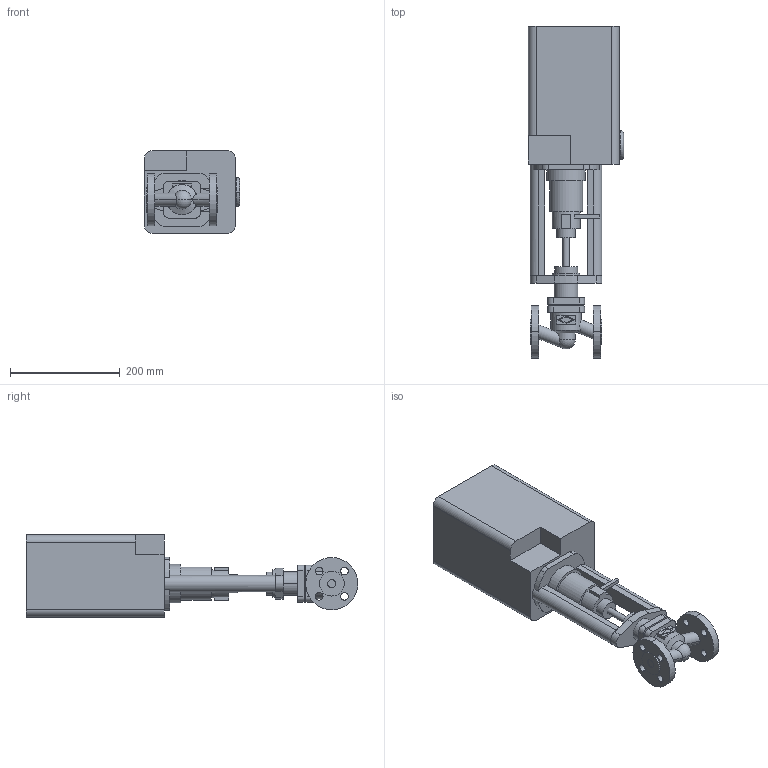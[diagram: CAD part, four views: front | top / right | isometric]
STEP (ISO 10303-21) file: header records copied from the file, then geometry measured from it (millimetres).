
FILE_DESCRIPTION(('OneSpaceDesigner STEP Export'),'2;1');
FILE_NAME('c000001174.stp','2005-02-16T12:05:36',(''),(''),'OneSpace Designer STEP processor (Jan. 2003) for AP203(Solid Model)','OneSpace Designer 12.01D 09-Jul-2004 (C) CoCreate Software GmbH','');
FILE_SCHEMA(('CONFIG_CONTROL_DESIGN'));
Length unit declared in the file: millimetre
Products named in the file (2): 1; 2
Bounding box: 173 x 603.5 x 150 mm (x, y, z)
Volume: 7318673.5 mm3; surface area: 360803.5 mm2
Topology: 2 solids, 2 shells, 174 faces, 438 edges, 289 vertices
Faces by surface type: plane 86, cylinder 82, cone 2, sphere 2, torus 2
Entity records: 5153 total; most frequent: CARTESIAN_POINT 974, ORIENTED_EDGE 872, DIRECTION 775, EDGE_CURVE 436, VERTEX_POINT 289, AXIS2_PLACEMENT_3D 267, VECTOR 241, LINE 241
